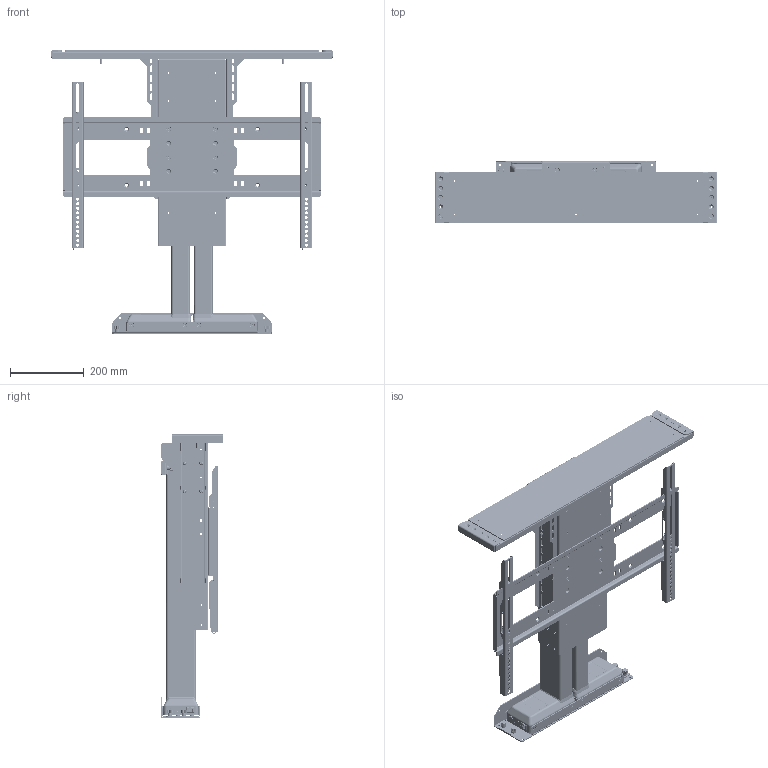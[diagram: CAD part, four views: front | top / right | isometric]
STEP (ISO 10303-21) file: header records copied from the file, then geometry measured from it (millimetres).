
FILE_DESCRIPTION(/* description */ ('STEP AP242','CAx-IF Rec.Pracs.---Representation and Presentation of Product Manufacturing Information (PMI)---4.0---2014-10-13','CAx-IF Rec.Pracs.---3D Tessellated Geometry---0.4---2014-09-14','2;1'),/* implementation_level */ '2;1');
FILE_NAME(/* name */ '654aa167c3dc330f76ed931b',/* time_stamp */ '2023-11-07T20:43:22Z',/* author */ (''),/* organization */ (''),/* preprocessor_version */ 'ST-DEVELOPER v19.4',/* originating_system */ ' ',/* authorisation */ ' ');
FILE_SCHEMA (('AP242_MANAGED_MODEL_BASED_3D_ENGINEERING_MIM_LF { 1 0 10303 442 1 1 4 }'));
Products named in the file (53): DL-65 (HD); WDS8151-215; Hex socket countersunk head screw M6x1 x 12; Socket button head screw M6x1 x 12; Socket button head screw M6x1 x 16; ULS-NX-032 - HD Quick Release LC Mount; Lift Column H <2>; L45 LC Motor Housing; L45 LC Inner Profile; L45 LC Middle Profile; L65 PS Adapter; ULS-NX-031 - HD QUICK RELEASE BASE MOUNT w/ PEMS <1>; ULS-NX-031 - HD QUICK RELEASE BASE MOUNT; PEM FHS-M6-12  ; ULS-NX-030 - HD REAR SUPPORT w/ PEMs <1>; ULS-NX-030 - HD Rear Support; ULS-NX-029 - HD Column Clamp; Lift Column H <1>; SS Fixed Short - Rev B2 <1>; PEM CLS-M6-1; PEM Nut F-M4-2; PEM Nut CLSS-M5-1; PS Screen Support Fixed 01; SBP & VMB <1>; PZ Pan head screw M5x0.80 x 25; ULS-NX-118 - UL VMB WELDMENT <1>; 90107A012; PEM BSO-632-10  ZI; VMB Washer; ULS-NX-020 - UL SCREEN LOCK; Socket button head cap screw #6-32 x 0.188; ULS-NX-019 - UL LEVEL ADJUSTMENT PLATE; ULS-NX-018 - UL VERICAL MOUNTING BAR; ULS-NX-118 - UL VMB WELDMENT <2>; ULS-NX-017 - UL SCREEN BACK PLATE; L-65 HD Lid Plate Assembly w/ Lid Supports <2>; ULS-NX-039 - ULS HD LID SUPPORT w/ PEMs <2>; ULS-NX-039 -- ULS HD LID SUPPORT; PEM CLS-M6-00  ; ULS-NX-039 - ULS HD LID SUPPORT w/ PEMs <1>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
Assembly tree (196 placements, depth 5):
  DL-65 (HD)
    WDS8151-215  x6
    Hex socket countersunk head screw M6x1 x 12  x17
    Socket button head screw M6x1 x 12  x8
    Socket button head screw M6x1 x 16  x8
    ULS-NX-032 - HD Quick Release LC Mount
    Lift Column H <2>
      L45 LC Motor Housing
      L45 LC Inner Profile
      L45 LC Middle Profile
    L65 PS Adapter
    ULS-NX-031 - HD QUICK RELEASE BASE MOUNT w/ PEMS <1>
      ULS-NX-031 - HD QUICK RELEASE BASE MOUNT
      PEM FHS-M6-12    x4
    ULS-NX-030 - HD REAR SUPPORT w/ PEMs <1>
      PEM FHS-M6-12    x2
      ULS-NX-030 - HD Rear Support
    ULS-NX-029 - HD Column Clamp
    Lift Column H <1>
      L45 LC Inner Profile
      L45 LC Middle Profile
      L45 LC Motor Housing
    SS Fixed Short - Rev B2 <1>
      PEM CLS-M6-1  x42
      PEM Nut F-M4-2  x8
      PEM Nut CLSS-M5-1  x2
      PS Screen Support Fixed 01
      L65 PS Adapter
    SBP & VMB <1>
      PZ Pan head screw M5x0.80 x 25  x2
      ULS-NX-118 - UL VMB WELDMENT <1>
        90107A012  x2
        PEM BSO-632-10  ZI  x2
        VMB Washer  x4
        ULS-NX-020 - UL SCREEN LOCK
        Socket button head cap screw #6-32 x 0.188  x2
        ULS-NX-019 - UL LEVEL ADJUSTMENT PLATE
        ULS-NX-018 - UL VERICAL MOUNTING BAR
      ULS-NX-118 - UL VMB WELDMENT <2>
        90107A012  x2
        PEM BSO-632-10  ZI  x2
        ULS-NX-018 - UL VERICAL MOUNTING BAR
        Socket button head cap screw #6-32 x 0.188  x2
        ULS-NX-019 - UL LEVEL ADJUSTMENT PLATE
        VMB Washer  x4
        ULS-NX-020 - UL SCREEN LOCK
      ULS-NX-017 - UL SCREEN BACK PLATE
    L-65 HD Lid Plate Assembly w/ Lid Supports <2>
      Hex socket countersunk head screw M6x1 x 12  x4
      ULS-NX-039 - ULS HD LID SUPPORT w/ PEMs <2>
        ULS-NX-039 -- ULS HD LID SUPPORT
        PEM CLS-M6-00    x2
      ULS-NX-039 - ULS HD LID SUPPORT w/ PEMs <1>
        ULS-NX-039 -- ULS HD LID SUPPORT
        PEM CLS-M6-00    x2
      L-65 HD Lid Plate Assembly w/ Lid Adapter <1>
        PEM S-M6-1  ZI  x6
        97069A106_Zinc-Plated Steel Spring Lock Washer  x4
        Plain washer extra large grade C M6  x4
        Hex thin nut grade A & B M6  x4
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Bounding box: 768.1 x 170.28 x 768.93 mm (x, y, z)
Volume: 16710029 mm3; surface area: 2974110.9 mm2
Topology: 183 solids, 183 shells, 11364 faces, 29747 edges, 19197 vertices
Faces by surface type: plane 7030, cylinder 2705, cone 878, bspline 446, torus 251, sphere 54
Full cylindrical faces by diameter (mm): 2.642 x4, 3.505 x4, 4 x8, 4.496 x6, 4.6 x4, 4.917 x56, 5 x36, 5.026 x4, 5.08 x4, 5.277 x8, 5.3 x12, 5.385 x12, 5.41 x8, 5.6 x8, 5.944 x4, 5.994 x4, 6 x83, 6.35 x28, 6.4 x20, 6.6 x18, 6.655 x4, 6.934 x2, 7.112 x2, 7.37 x16, 7.493 x2, 7.925 x2, 8.128 x34, 8.509 x2, 8.64 x2, 8.73 x52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
Entity records: 101282 total; most frequent: CARTESIAN_POINT 19674, DIRECTION 15978, ORIENTED_EDGE 15460, EDGE_CURVE 7730, AXIS2_PLACEMENT_3D 5493, VERTEX_POINT 5172, LINE 4992, VECTOR 4992
